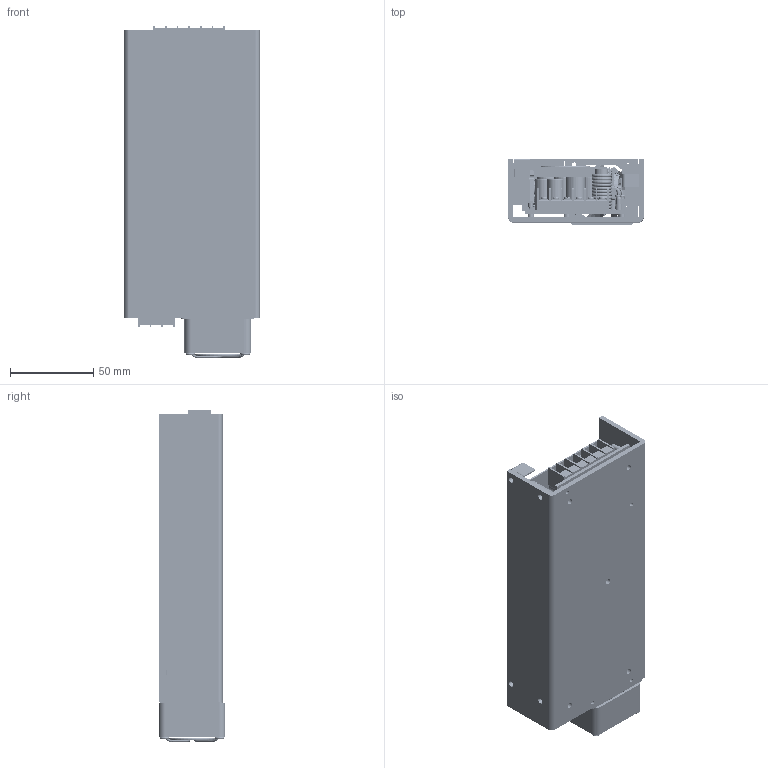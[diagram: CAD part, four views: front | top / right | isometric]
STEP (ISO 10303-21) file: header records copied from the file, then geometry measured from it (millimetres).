
FILE_DESCRIPTION (( 'STEP AP203' ), '1' );
FILE_NAME ('360F.STEP', '2012-10-17T08:58:56', ( '微软用户' ), ( '微软中国' ), 'SwSTEP 2.0', 'SolidWorks 2010', '' );
FILE_SCHEMA (( 'CONFIG_CONTROL_DESIGN' ));
Products named in the file (39): 訇脣璃; 奻裔1; 耜瑞圮; 360F; Ucase; 肣翐; PCB; 黑线圈; 湮傷赽窪伎; 绿大电容; 蓝电容; 散热片B1; 散热片B2; 散热片A2; 散热片A1; 线圈 大; 复件 蓝电容; 儒极; 儒极湮; 黑灰电容; xx; 硌尨腑; 黄歪电容; 泂え; 灰横电容; L倰沺え; 蹟翐M4; 黑大电容; 曹揤ん; 线圈; 灰电容; 苤傷赽窪伎; 绿电容大; 懦伎萇郯; 酴伎萇郯; 湮儒极1; 方灰电容; 滅誘; СPCB
Assembly tree (71 placements, depth 3):
  360F
    灰电容  x5
    散热片A2
    L倰沺え  x2
    黄歪电容  x6
    儒极  x3
    湮儒极1
    肣翐  x4
    复件 蓝电容  x4
    懦伎萇郯  x3
    绿电容大
    硌尨腑
    蹟翐M4  x5
    Ucase
    黑线圈
    散热片B2
    苤傷赽窪伎
    訇脣璃
      泂え  x3
      СPCB
      灰横电容
    曹揤ん
    黑大电容
    滅誘
    奻裔1
    耜瑞圮
    儒极湮  x5
    PCB
    方灰电容
    绿大电容
    泂え
    散热片B1
    酴伎萇郯  x2
    线圈 大
    蓝电容  x2
    散热片A1
    湮傷赽窪伎
    线圈
    黑灰电容
    xx
Bounding box: 81.3 x 40.07 x 199.4 mm (x, y, z)
Volume: 282876.6 mm3; surface area: 197494.1 mm2
Topology: 194 solids, 197 shells, 4581 faces, 11216 edges, 6872 vertices
Faces by surface type: cylinder 1644, plane 1460, torus 1300, bspline 99, sphere 58, cone 20
Entity records: 121350 total; most frequent: CARTESIAN_POINT 27538, DIRECTION 20368, ORIENTED_EDGE 17910, EDGE_CURVE 8959, AXIS2_PLACEMENT_3D 8506, VERTEX_POINT 5448, CIRCLE 4840, EDGE_LOOP 3829
